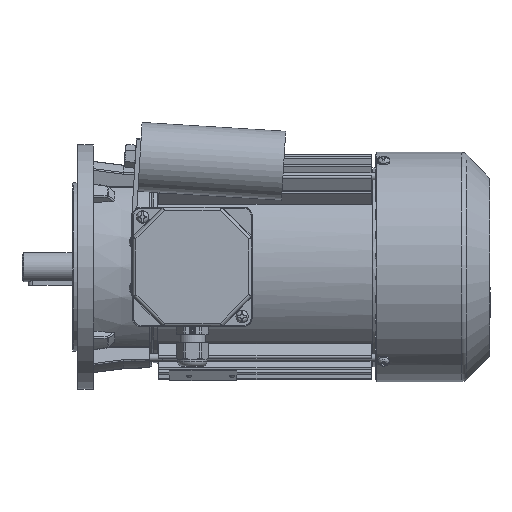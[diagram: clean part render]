
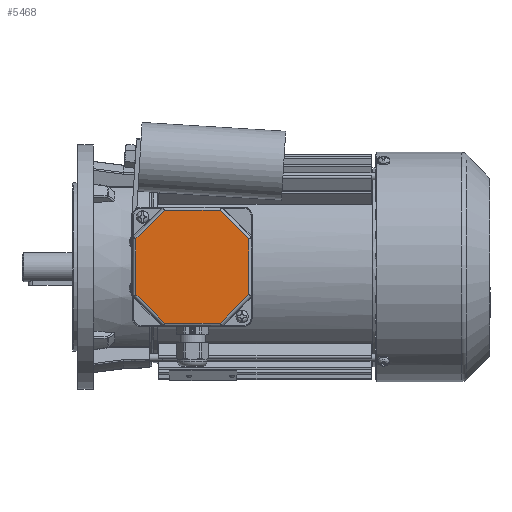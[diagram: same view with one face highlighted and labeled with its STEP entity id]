
A CAD part, top view. The second image highlights one B-rep face of the part: STEP entity #5468.
In plain terms, the highlighted planar face has unit normal (0, 0, 1).
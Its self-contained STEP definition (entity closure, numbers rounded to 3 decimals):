
#5468 = ADVANCED_FACE( '', ( #12187 ), #12188, .T. );
#12187 = FACE_OUTER_BOUND( '', #37133, .T. );
#12188 = PLANE( '', #37134 );
#37133 = EDGE_LOOP( '', ( #73938, #73939, #73940, #73941, #73942, #73943, #73944, #73945 ) );
#37134 = AXIS2_PLACEMENT_3D( '', #73946, #73947, #73948 );
#73938 = ORIENTED_EDGE( '', *, *, #91988, .T. );
#73939 = ORIENTED_EDGE( '', *, *, #91989, .T. );
#73940 = ORIENTED_EDGE( '', *, *, #87543, .T. );
#73941 = ORIENTED_EDGE( '', *, *, #91958, .T. );
#73942 = ORIENTED_EDGE( '', *, *, #90229, .T. );
#73943 = ORIENTED_EDGE( '', *, *, #88353, .T. );
#73944 = ORIENTED_EDGE( '', *, *, #91990, .T. );
#73945 = ORIENTED_EDGE( '', *, *, #91991, .T. );
#73946 = CARTESIAN_POINT( '', ( -39., 39., 12. ) );
#73947 = DIRECTION( '', ( 0., 0., 1. ) );
#73948 = DIRECTION( '', ( 1., 0., 0. ) );
#87543 = EDGE_CURVE( '', #99259, #99260, #99261, .F. );
#88353 = EDGE_CURVE( '', #100596, #100597, #100598, .T. );
#90229 = EDGE_CURVE( '', #103579, #100596, #103580, .F. );
#91958 = EDGE_CURVE( '', #99260, #103579, #106116, .T. );
#91988 = EDGE_CURVE( '', #106156, #106157, #106158, .F. );
#91989 = EDGE_CURVE( '', #106157, #99259, #106159, .T. );
#91990 = EDGE_CURVE( '', #100597, #98899, #106160, .F. );
#91991 = EDGE_CURVE( '', #98899, #106156, #106161, .T. );
#98899 = VERTEX_POINT( '', #114629 );
#99259 = VERTEX_POINT( '', #115912 );
#99260 = VERTEX_POINT( '', #115913 );
#99261 = LINE( '', #115914, #115915 );
#100596 = VERTEX_POINT( '', #120061 );
#100597 = VERTEX_POINT( '', #120062 );
#100598 = LINE( '', #120063, #120064 );
#103579 = VERTEX_POINT( '', #131062 );
#103580 = LINE( '', #131063, #131064 );
#106116 = LINE( '', #139534, #139535 );
#106156 = VERTEX_POINT( '', #139717 );
#106157 = VERTEX_POINT( '', #139718 );
#106158 = LINE( '', #139719, #139720 );
#106159 = LINE( '', #139721, #139722 );
#106160 = LINE( '', #139723, #139724 );
#106161 = LINE( '', #139725, #139726 );
#114629 = CARTESIAN_POINT( '', ( 18.255, -36.825, 12. ) );
#115912 = CARTESIAN_POINT( '', ( 18.255, 36.825, 12. ) );
#115913 = CARTESIAN_POINT( '', ( -18.255, 36.825, 12. ) );
#115914 = CARTESIAN_POINT( '', ( -19.069, 36.825, 12. ) );
#115915 = VECTOR( '', #156793, 1000. );
#120061 = CARTESIAN_POINT( '', ( -36.825, -18.255, 12. ) );
#120062 = CARTESIAN_POINT( '', ( -18.255, -36.825, 12. ) );
#120063 = CARTESIAN_POINT( '', ( -17.679, -37.401, 12. ) );
#120064 = VECTOR( '', #157687, 1000. );
#131062 = CARTESIAN_POINT( '', ( -36.825, 18.255, 12. ) );
#131063 = CARTESIAN_POINT( '', ( -36.825, -19.069, 12. ) );
#131064 = VECTOR( '', #159648, 1000. );
#139534 = CARTESIAN_POINT( '', ( -37.401, 17.679, 12. ) );
#139535 = VECTOR( '', #161884, 1000. );
#139717 = CARTESIAN_POINT( '', ( 36.825, -18.255, 12. ) );
#139718 = CARTESIAN_POINT( '', ( 36.825, 18.255, 12. ) );
#139719 = CARTESIAN_POINT( '', ( 36.825, 19.069, 12. ) );
#139720 = VECTOR( '', #161920, 1000. );
#139721 = CARTESIAN_POINT( '', ( 17.679, 37.401, 12. ) );
#139722 = VECTOR( '', #161921, 1000. );
#139723 = CARTESIAN_POINT( '', ( 19.069, -36.825, 12. ) );
#139724 = VECTOR( '', #161922, 1000. );
#139725 = CARTESIAN_POINT( '', ( 37.401, -17.679, 12. ) );
#139726 = VECTOR( '', #161923, 1000. );
#156793 = DIRECTION( '', ( 1., 0., 0. ) );
#157687 = DIRECTION( '', ( 0.707, -0.707, 0. ) );
#159648 = DIRECTION( '', ( 0., 1., 0. ) );
#161884 = DIRECTION( '', ( -0.707, -0.707, 0. ) );
#161920 = DIRECTION( '', ( 0., -1., 0. ) );
#161921 = DIRECTION( '', ( -0.707, 0.707, 0. ) );
#161922 = DIRECTION( '', ( -1., 0., 0. ) );
#161923 = DIRECTION( '', ( 0.707, 0.707, 0. ) );
